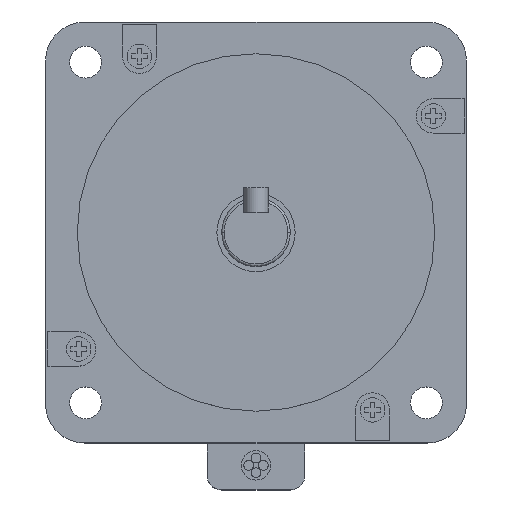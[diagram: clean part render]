
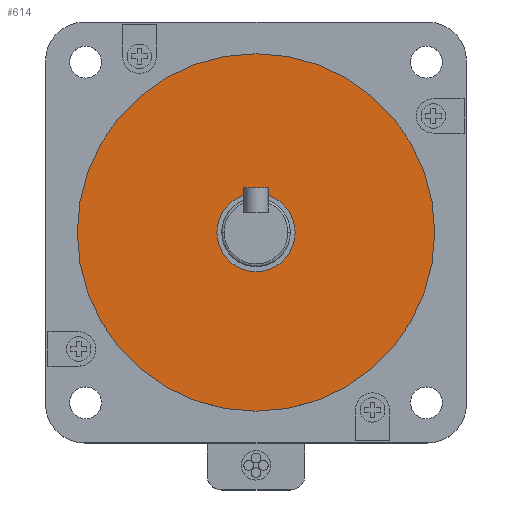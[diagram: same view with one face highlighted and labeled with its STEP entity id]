
A CAD part, top view. The second image highlights one B-rep face of the part: STEP entity #614.
In plain terms, the highlighted planar face has unit normal (0, 0, 1).
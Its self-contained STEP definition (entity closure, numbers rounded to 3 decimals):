
#12 = DIRECTION ( 'NONE',  ( 0., 0., -1. ) ) ;
#203 = DIRECTION ( 'NONE',  ( -1., 0., 0. ) ) ;
#614 = ADVANCED_FACE ( 'NONE', ( #3922, #1152 ), #4912, .T. ) ;
#694 = DIRECTION ( 'NONE',  ( 0., 0., -1. ) ) ;
#921 = ORIENTED_EDGE ( 'NONE', *, *, #5033, .F. ) ;
#1030 = CARTESIAN_POINT ( 'NONE',  ( 0., 0., 2. ) ) ;
#1031 = EDGE_LOOP ( 'NONE', ( #6366, #4267 ) ) ;
#1072 = DIRECTION ( 'NONE',  ( -1., 0., 0. ) ) ;
#1152 = FACE_OUTER_BOUND ( 'NONE', #2915, .T. ) ;
#1249 = AXIS2_PLACEMENT_3D ( 'NONE', #2559, #5312, #4705 ) ;
#1598 = DIRECTION ( 'NONE',  ( 1., 0., 0. ) ) ;
#1774 = CARTESIAN_POINT ( 'NONE',  ( 0., 0., 2. ) ) ;
#1978 = CARTESIAN_POINT ( 'NONE',  ( -36.513, 0., 2. ) ) ;
#2125 = CARTESIAN_POINT ( 'NONE',  ( 0., 0., 2. ) ) ;
#2146 = ORIENTED_EDGE ( 'NONE', *, *, #3373, .F. ) ;
#2318 = AXIS2_PLACEMENT_3D ( 'NONE', #1774, #3484, #203 ) ;
#2416 = DIRECTION ( 'NONE',  ( -1., 0., 0. ) ) ;
#2559 = CARTESIAN_POINT ( 'NONE',  ( 0., 0., 2. ) ) ;
#2867 = EDGE_CURVE ( 'NONE', #3165, #3648, #4283, .T. ) ;
#2915 = EDGE_LOOP ( 'NONE', ( #2146, #921 ) ) ;
#2983 = CIRCLE ( 'NONE', #3034, 36.513 ) ;
#3034 = AXIS2_PLACEMENT_3D ( 'NONE', #6842, #694, #2416 ) ;
#3165 = VERTEX_POINT ( 'NONE', #6432 ) ;
#3373 = EDGE_CURVE ( 'NONE', #6649, #4215, #2983, .T. ) ;
#3484 = DIRECTION ( 'NONE',  ( 0., 0., -1. ) ) ;
#3648 = VERTEX_POINT ( 'NONE', #5908 ) ;
#3657 = AXIS2_PLACEMENT_3D ( 'NONE', #1030, #4336, #1598 ) ;
#3922 = FACE_BOUND ( 'NONE', #1031, .T. ) ;
#4143 = CIRCLE ( 'NONE', #6978, 8. ) ;
#4215 = VERTEX_POINT ( 'NONE', #4265 ) ;
#4265 = CARTESIAN_POINT ( 'NONE',  ( 36.513, 0., 2. ) ) ;
#4267 = ORIENTED_EDGE ( 'NONE', *, *, #6681, .T. ) ;
#4283 = CIRCLE ( 'NONE', #2318, 8. ) ;
#4336 = DIRECTION ( 'NONE',  ( 0., 0., 1. ) ) ;
#4705 = DIRECTION ( 'NONE',  ( -1., 0., 0. ) ) ;
#4848 = CIRCLE ( 'NONE', #1249, 36.513 ) ;
#4912 = PLANE ( 'NONE',  #3657 ) ;
#5033 = EDGE_CURVE ( 'NONE', #4215, #6649, #4848, .T. ) ;
#5312 = DIRECTION ( 'NONE',  ( 0., 0., -1. ) ) ;
#5908 = CARTESIAN_POINT ( 'NONE',  ( 8., 0., 2. ) ) ;
#6366 = ORIENTED_EDGE ( 'NONE', *, *, #2867, .T. ) ;
#6432 = CARTESIAN_POINT ( 'NONE',  ( -8., 0., 2. ) ) ;
#6649 = VERTEX_POINT ( 'NONE', #1978 ) ;
#6681 = EDGE_CURVE ( 'NONE', #3648, #3165, #4143, .T. ) ;
#6842 = CARTESIAN_POINT ( 'NONE',  ( 0., 0., 2. ) ) ;
#6978 = AXIS2_PLACEMENT_3D ( 'NONE', #2125, #12, #1072 ) ;
